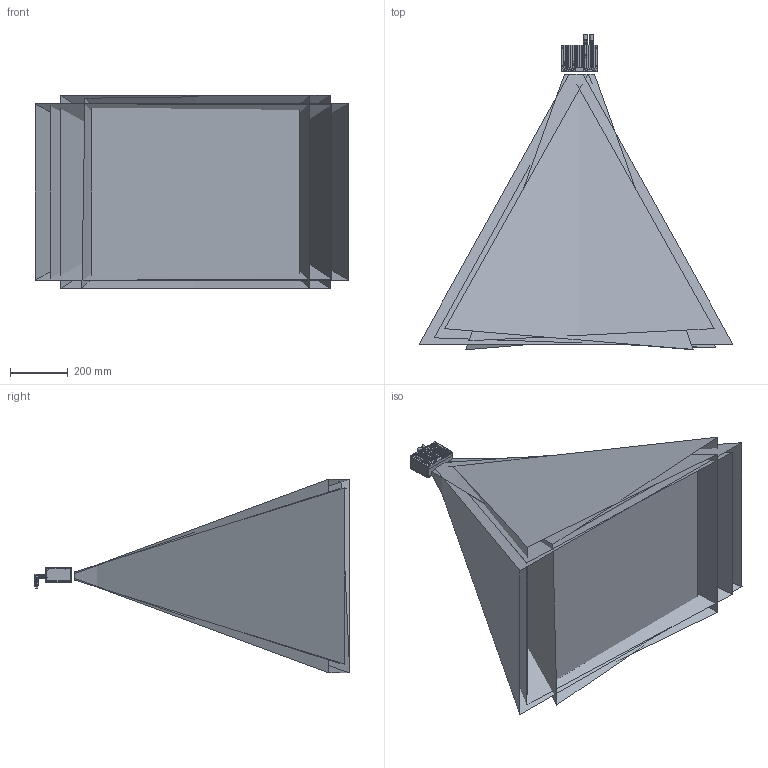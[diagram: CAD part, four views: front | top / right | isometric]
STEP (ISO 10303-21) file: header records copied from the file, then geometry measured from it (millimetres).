
FILE_DESCRIPTION((''),'2;1');
FILE_NAME('MV-DPS250P-03--0001','2025-12-30T13:51:30',('yangtao11'),(''),'CREO PARAMETRIC BY PTC INC, 2020044','CREO PARAMETRIC BY PTC INC, 2020044','');
FILE_SCHEMA(('CONFIG_CONTROL_DESIGN','SHAPE_APPEARANCE_LAYERS_GROUPS'));
Products named in the file (1): MV-DPS250P-03--0001
Bounding box: 1089.45 x 1094.62 x 671.68 mm (x, y, z)
Volume: 125100000 mm3; surface area: 8213691.5 mm2
Topology: 1 solids, 59 shells, 1100 faces, 3688 edges, 2586 vertices
Faces by surface type: plane 520, cylinder 358, cone 116, bspline 63, torus 43
Entity records: 85467 total; most frequent: CARTESIAN_POINT 51708, ORIENTED_EDGE 6207, DIRECTION 5858, EDGE_CURVE 3672, VERTEX_POINT 2586, AXIS2_PLACEMENT_3D 1964, VECTOR 1930, LINE 1930
